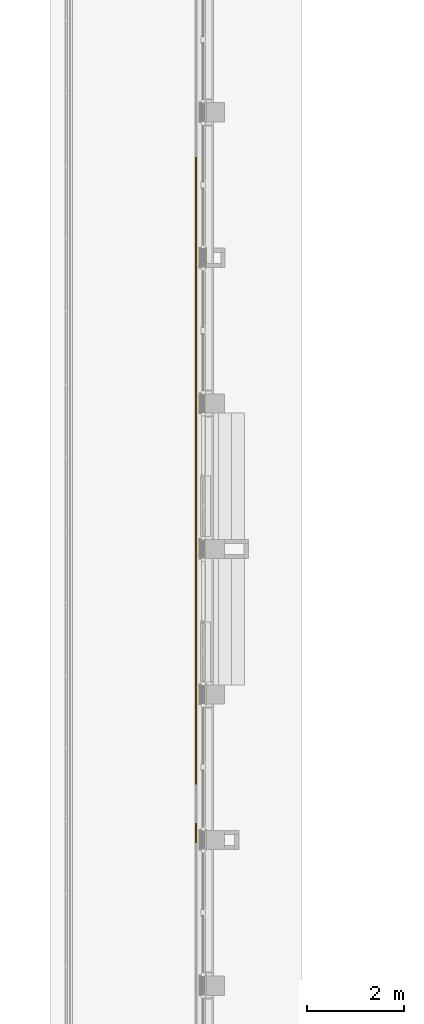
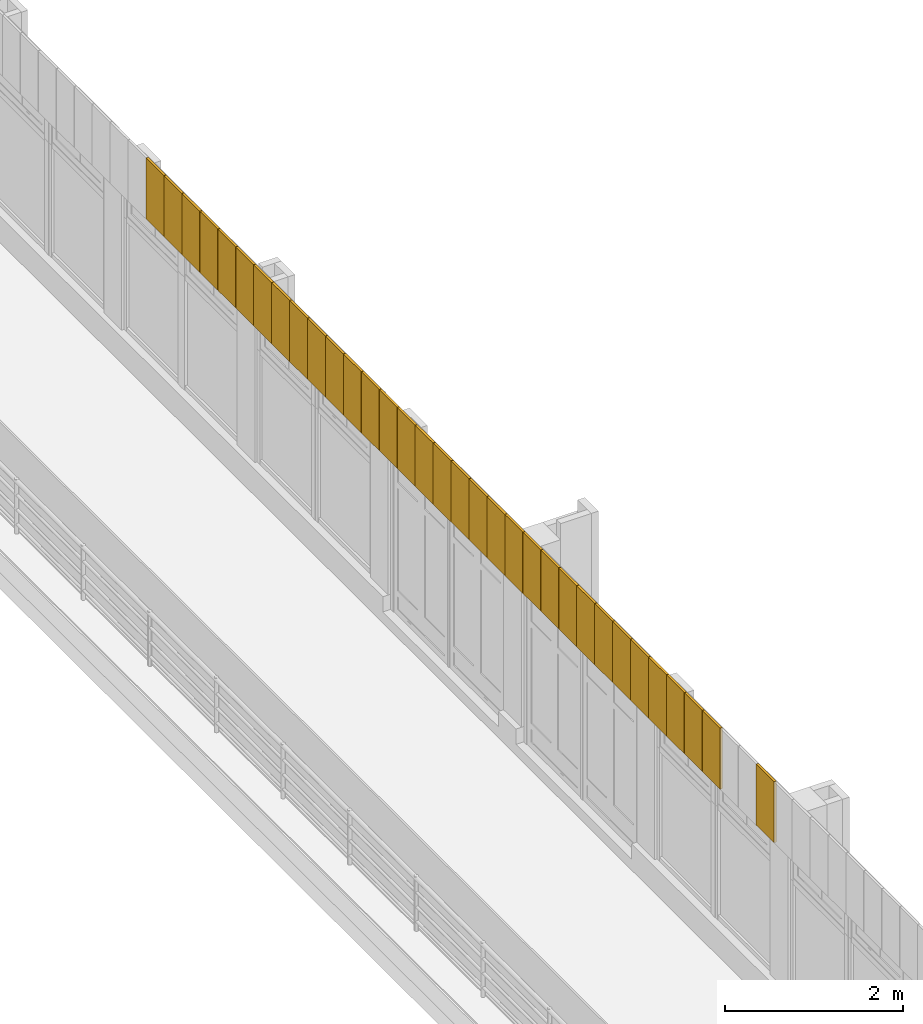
# One storey, part 15 of 16: 33 coverings.
"""IFC2X3 building model written with IfcOpenShell, lengths in millimetres."""

from ifc_helpers import new_model, entity, si_unit, converted_unit, derived_unit, direction, frame, frame_2d, origin, place, context, subcontext, project, spatial, rectangle, extrude, material, type_object, element, save


model = new_model("IFC2X3")

# Units and contexts
model_context = context("Model", 3, precision=0.01, world=origin(), true_north=direction((6.123031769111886e-17, 1.0)))
body_context = subcontext(model_context, "Body", "Model", "MODEL_VIEW")
ifc_project = project(units=[si_unit("LENGTHUNIT", "METRE", prefix="MILLI"), si_unit("AREAUNIT", "SQUARE_METRE"), si_unit("VOLUMEUNIT", "CUBIC_METRE"), converted_unit("PLANEANGLEUNIT", "DEGREE", entity("IfcPlaneAngleMeasure", 0.017453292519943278), si_unit("PLANEANGLEUNIT", "RADIAN"), dimensions=[0, 0, 0, 0, 0, 0, 0]), si_unit("MASSUNIT", "GRAM", prefix="KILO"), derived_unit("MASSDENSITYUNIT", [(si_unit("MASSUNIT", "GRAM", prefix="KILO"), 1), (si_unit("LENGTHUNIT", "METRE"), -3)]), derived_unit("IONCONCENTRATIONUNIT", [(si_unit("MASSUNIT", "GRAM", prefix="KILO"), 1), (si_unit("LENGTHUNIT", "METRE"), -3)]), derived_unit("MOMENTOFINERTIAUNIT", [(si_unit("LENGTHUNIT", "METRE"), 4)]), si_unit("TIMEUNIT", "SECOND"), si_unit("FREQUENCYUNIT", "HERTZ"), si_unit("THERMODYNAMICTEMPERATUREUNIT", "DEGREE_CELSIUS"), derived_unit("THERMALTRANSMITTANCEUNIT", [(si_unit("MASSUNIT", "GRAM", prefix="KILO"), 1), (si_unit("THERMODYNAMICTEMPERATUREUNIT", "KELVIN"), -1), (si_unit("TIMEUNIT", "SECOND"), -3)]), derived_unit("THERMALCONDUCTANCEUNIT", [(si_unit("MASSUNIT", "GRAM", prefix="KILO"), 1), (si_unit("THERMODYNAMICTEMPERATUREUNIT", "KELVIN"), -1), (si_unit("TIMEUNIT", "SECOND"), -3), (si_unit("LENGTHUNIT", "METRE"), 1)]), derived_unit("VOLUMETRICFLOWRATEUNIT", [(si_unit("LENGTHUNIT", "METRE", prefix="DECI"), 3), (si_unit("TIMEUNIT", "SECOND"), -1)]), derived_unit("MASSFLOWRATEUNIT", [(si_unit("MASSUNIT", "GRAM", prefix="KILO"), 1), (si_unit("TIMEUNIT", "SECOND"), -1)]), derived_unit("ROTATIONALFREQUENCYUNIT", [(si_unit("TIMEUNIT", "SECOND"), -1)]), si_unit("ELECTRICCURRENTUNIT", "AMPERE"), si_unit("ELECTRICVOLTAGEUNIT", "VOLT"), si_unit("POWERUNIT", "WATT"), si_unit("FORCEUNIT", "NEWTON", prefix="KILO"), si_unit("ILLUMINANCEUNIT", "LUX"), si_unit("LUMINOUSFLUXUNIT", "LUMEN"), si_unit("LUMINOUSINTENSITYUNIT", "CANDELA"), si_unit("ENERGYUNIT", "JOULE"), derived_unit("USERDEFINED", [(si_unit("MASSUNIT", "GRAM", prefix="KILO"), -1), (si_unit("LENGTHUNIT", "METRE"), -2), (si_unit("TIMEUNIT", "SECOND"), 3), (si_unit("LUMINOUSFLUXUNIT", "LUMEN"), 1)]), derived_unit("USERDEFINED", [(si_unit("MASSUNIT", "GRAM", prefix="KILO"), 1), (si_unit("TIMEUNIT", "SECOND"), -3), (si_unit("LENGTHUNIT", "METRE"), 3), (si_unit("ELECTRICCURRENTUNIT", "AMPERE"), -2)]), derived_unit("SOUNDPOWERUNIT", [(si_unit("MASSUNIT", "GRAM", prefix="KILO"), 1), (si_unit("TIMEUNIT", "SECOND"), -3), (si_unit("LENGTHUNIT", "METRE"), 2)]), derived_unit("SOUNDPRESSUREUNIT", [(si_unit("MASSUNIT", "GRAM", prefix="KILO"), 1), (si_unit("LENGTHUNIT", "METRE"), -1), (si_unit("TIMEUNIT", "SECOND"), -2)]), derived_unit("LINEARVELOCITYUNIT", [(si_unit("LENGTHUNIT", "METRE"), 1), (si_unit("TIMEUNIT", "SECOND"), -1)]), si_unit("PRESSUREUNIT", "PASCAL"), derived_unit("USERDEFINED", [(si_unit("MASSUNIT", "GRAM", prefix="KILO"), 1), (si_unit("LENGTHUNIT", "METRE"), -2), (si_unit("TIMEUNIT", "SECOND"), -2)]), derived_unit("LINEARFORCEUNIT", [(si_unit("MASSUNIT", "GRAM", prefix="KILO"), 1), (si_unit("TIMEUNIT", "SECOND"), -2)]), derived_unit("PLANARFORCEUNIT", [(si_unit("MASSUNIT", "GRAM", prefix="KILO"), 1), (si_unit("LENGTHUNIT", "METRE"), -1), (si_unit("TIMEUNIT", "SECOND"), -2)]), derived_unit("SPECIFICHEATCAPACITYUNIT", [(si_unit("THERMODYNAMICTEMPERATUREUNIT", "KELVIN"), -1), (si_unit("LENGTHUNIT", "METRE"), 2), (si_unit("TIMEUNIT", "SECOND"), -2)]), derived_unit("HEATFLUXDENSITYUNIT", [(si_unit("MASSUNIT", "GRAM", prefix="KILO"), 1), (si_unit("TIMEUNIT", "SECOND"), -3)]), derived_unit("HEATINGVALUEUNIT", [(si_unit("LENGTHUNIT", "METRE"), 2), (si_unit("TIMEUNIT", "SECOND"), -2)]), derived_unit("VAPORPERMEABILITYUNIT", [(si_unit("LENGTHUNIT", "METRE"), -1), (si_unit("TIMEUNIT", "SECOND"), 1)]), derived_unit("DYNAMICVISCOSITYUNIT", [(si_unit("MASSUNIT", "GRAM", prefix="KILO"), 1), (si_unit("TIMEUNIT", "SECOND"), -1), (si_unit("LENGTHUNIT", "METRE"), -1)]), derived_unit("THERMALEXPANSIONCOEFFICIENTUNIT", [(si_unit("THERMODYNAMICTEMPERATUREUNIT", "KELVIN"), -1)]), derived_unit("MODULUSOFELASTICITYUNIT", [(si_unit("MASSUNIT", "GRAM", prefix="KILO"), 1), (si_unit("LENGTHUNIT", "METRE"), -1), (si_unit("TIMEUNIT", "SECOND"), -2)]), derived_unit("ISOTHERMALMOISTURECAPACITYUNIT", [(si_unit("MASSUNIT", "GRAM", prefix="KILO"), -1), (si_unit("LENGTHUNIT", "METRE"), 3)]), derived_unit("MOISTUREDIFFUSIVITYUNIT", [(si_unit("TIMEUNIT", "SECOND"), -1), (si_unit("LENGTHUNIT", "METRE"), 2)]), derived_unit("MASSPERLENGTHUNIT", [(si_unit("MASSUNIT", "GRAM", prefix="KILO"), 1), (si_unit("LENGTHUNIT", "METRE"), -1)]), derived_unit("THERMALRESISTANCEUNIT", [(si_unit("MASSUNIT", "GRAM", prefix="KILO"), -1), (si_unit("TIMEUNIT", "SECOND"), 3), (si_unit("THERMODYNAMICTEMPERATUREUNIT", "KELVIN"), 1)]), derived_unit("ACCELERATIONUNIT", [(si_unit("LENGTHUNIT", "METRE"), 1), (si_unit("TIMEUNIT", "SECOND"), -2)]), derived_unit("ANGULARVELOCITYUNIT", [(si_unit("TIMEUNIT", "SECOND"), -1), (si_unit("PLANEANGLEUNIT", "RADIAN"), 1)]), derived_unit("LINEARSTIFFNESSUNIT", [(si_unit("MASSUNIT", "GRAM", prefix="KILO"), 1), (si_unit("TIMEUNIT", "SECOND"), -2)]), derived_unit("WARPINGCONSTANTUNIT", [(si_unit("LENGTHUNIT", "METRE"), 6)]), derived_unit("LINEARMOMENTUNIT", [(si_unit("MASSUNIT", "GRAM", prefix="KILO"), 1), (si_unit("LENGTHUNIT", "METRE"), 1), (si_unit("TIMEUNIT", "SECOND"), -2)]), derived_unit("TORQUEUNIT", [(si_unit("MASSUNIT", "GRAM", prefix="KILO"), 1), (si_unit("LENGTHUNIT", "METRE"), 2), (si_unit("TIMEUNIT", "SECOND"), -2)])], contexts=[model_context])

# Site, building, storey
site_placement = place(None, origin())
site = spatial("IfcSite", under=ifc_project, at=site_placement, Name="Default", CompositionType="ELEMENT")
building_placement = place(site_placement, origin())
building = spatial("IfcBuilding", under=site, at=building_placement, Name="Eesti Rahvusraamatukogu hoone renoveerimise projekteerimistööd", CompositionType="ELEMENT")
storey_placement = place(building_placement, frame((0.0, 0.0, 8250.000000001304)))
storey = spatial("IfcBuildingStorey", under=building, at=storey_placement, Name="3. korrus", CompositionType="ELEMENT", Elevation=8250.000000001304)

# Coverings
ifc_material = material(Name="LUMION_facade new panels")
covering_type = type_object("IfcCoveringType", Name="Fassaadiplaat:FP-01- 400x840", PredefinedType="NOTDEFINED")
covering_1_placement = place(storey_placement, frame((0.0, 0.0, 2600.0)))
element("IfcCovering", 1, at=covering_1_placement, inside=storey, type_object=covering_type, material=ifc_material, Name="Fassaadiplaat:FP-01- 400x840", ObjectType="Fassaadiplaat:FP-01- 400x840", PredefinedType="NOTDEFINED", context=body_context, shape_type="SweptSolid", body=[
    extrude(rectangle(XDim=400.0, YDim=4.999999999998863, at=frame_2d((2.1742607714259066e-12, 0.0), x_axis=(1.0, 0.0))), frame((-33797.49999999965, 27188.0, 0.0), z_axis=(0.0, 0.0, 1.0), x_axis=(0.0, 1.0, 0.0)), (0.0, 0.0, 1.0), 839.9999999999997),
    extrude(rectangle(XDim=400.0, YDim=24.99999999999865, at=frame_2d((2.1742607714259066e-12, 2.1662671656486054e-12), x_axis=(1.0, 0.0))), frame((-33782.49999999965, 27188.0, 0.0), z_axis=(0.0, 0.0, 1.0), x_axis=(0.0, 1.0, 0.0)), (0.0, 0.0, 1.0), 839.9999999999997),
])
covering_2_placement = place(storey_placement, frame((0.0, 0.0, 2600.0)))
element("IfcCovering", 2, at=covering_2_placement, inside=storey, type_object=covering_type, material=ifc_material, Name="Fassaadiplaat:FP-01- 400x840", ObjectType="Fassaadiplaat:FP-01- 400x840", PredefinedType="NOTDEFINED", context=body_context, shape_type="SweptSolid", body=[
    extrude(rectangle(XDim=400.0, YDim=4.999999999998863, at=frame_2d((-2.1742607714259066e-12, 0.0), x_axis=(1.0, 0.0))), frame((-33797.49999999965, 26784.0, 0.0), z_axis=(0.0, 0.0, 1.0), x_axis=(0.0, 1.0, 0.0)), (0.0, 0.0, 1.0), 839.9999999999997),
    extrude(rectangle(XDim=400.0, YDim=24.99999999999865, at=frame_2d((-2.1742607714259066e-12, 2.1662671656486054e-12), x_axis=(1.0, 0.0))), frame((-33782.49999999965, 26784.0, 0.0), z_axis=(0.0, 0.0, 1.0), x_axis=(0.0, 1.0, 0.0)), (0.0, 0.0, 1.0), 839.9999999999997),
])
covering_3_placement = place(storey_placement, frame((0.0, 0.0, 2600.0)))
element("IfcCovering", 3, at=covering_3_placement, inside=storey, type_object=covering_type, material=ifc_material, Name="Fassaadiplaat:FP-01- 400x840", ObjectType="Fassaadiplaat:FP-01- 400x840", PredefinedType="NOTDEFINED", context=body_context, shape_type="SweptSolid", body=[
    extrude(rectangle(XDim=400.0, YDim=4.999999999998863, at=frame_2d((2.1742607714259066e-12, 0.0), x_axis=(1.0, 0.0))), frame((-33797.49999999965, 26380.0, 0.0), z_axis=(0.0, 0.0, 1.0), x_axis=(0.0, 1.0, 0.0)), (0.0, 0.0, 1.0), 839.9999999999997),
    extrude(rectangle(XDim=400.0, YDim=24.99999999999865, at=frame_2d((2.1742607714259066e-12, 2.1662671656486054e-12), x_axis=(1.0, 0.0))), frame((-33782.49999999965, 26380.0, 0.0), z_axis=(0.0, 0.0, 1.0), x_axis=(0.0, 1.0, 0.0)), (0.0, 0.0, 1.0), 839.9999999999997),
])
covering_4_placement = place(storey_placement, frame((0.0, 0.0, 2600.0)))
element("IfcCovering", 4, at=covering_4_placement, inside=storey, type_object=covering_type, material=ifc_material, Name="Fassaadiplaat:FP-01- 400x840", ObjectType="Fassaadiplaat:FP-01- 400x840", PredefinedType="NOTDEFINED", context=body_context, shape_type="SweptSolid", body=[
    extrude(rectangle(XDim=400.0, YDim=4.999999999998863, at=frame_2d((-2.1742607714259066e-12, 0.0), x_axis=(1.0, 0.0))), frame((-33797.49999999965, 25976.0, 0.0), z_axis=(0.0, 0.0, 1.0), x_axis=(0.0, 1.0, 0.0)), (0.0, 0.0, 1.0), 839.9999999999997),
    extrude(rectangle(XDim=400.0, YDim=24.99999999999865, at=frame_2d((-2.1742607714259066e-12, 2.1662671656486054e-12), x_axis=(1.0, 0.0))), frame((-33782.49999999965, 25976.0, 0.0), z_axis=(0.0, 0.0, 1.0), x_axis=(0.0, 1.0, 0.0)), (0.0, 0.0, 1.0), 839.9999999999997),
])
covering_5_placement = place(storey_placement, frame((0.0, 0.0, 2600.0)))
element("IfcCovering", 5, at=covering_5_placement, inside=storey, type_object=covering_type, material=ifc_material, Name="Fassaadiplaat:FP-01- 400x840", ObjectType="Fassaadiplaat:FP-01- 400x840", PredefinedType="NOTDEFINED", context=body_context, shape_type="SweptSolid", body=[
    extrude(rectangle(XDim=400.0, YDim=4.999999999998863, at=frame_2d((2.1742607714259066e-12, 0.0), x_axis=(1.0, 0.0))), frame((-33797.49999999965, 25572.0, 0.0), z_axis=(0.0, 0.0, 1.0), x_axis=(0.0, 1.0, 0.0)), (0.0, 0.0, 1.0), 839.9999999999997),
    extrude(rectangle(XDim=400.0, YDim=24.99999999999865, at=frame_2d((2.1742607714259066e-12, 2.1662671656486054e-12), x_axis=(1.0, 0.0))), frame((-33782.49999999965, 25572.0, 0.0), z_axis=(0.0, 0.0, 1.0), x_axis=(0.0, 1.0, 0.0)), (0.0, 0.0, 1.0), 839.9999999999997),
])
covering_6_placement = place(storey_placement, frame((0.0, 0.0, 2600.0)))
element("IfcCovering", 6, at=covering_6_placement, inside=storey, type_object=covering_type, material=ifc_material, Name="Fassaadiplaat:FP-01- 400x840", ObjectType="Fassaadiplaat:FP-01- 400x840", PredefinedType="NOTDEFINED", context=body_context, shape_type="SweptSolid", body=[
    extrude(rectangle(XDim=400.0, YDim=4.999999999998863, at=frame_2d((-2.1742607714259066e-12, 0.0), x_axis=(1.0, 0.0))), frame((-33797.49999999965, 25168.0, 0.0), z_axis=(0.0, 0.0, 1.0), x_axis=(0.0, 1.0, 0.0)), (0.0, 0.0, 1.0), 839.9999999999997),
    extrude(rectangle(XDim=400.0, YDim=24.99999999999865, at=frame_2d((-2.1742607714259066e-12, 2.1662671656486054e-12), x_axis=(1.0, 0.0))), frame((-33782.49999999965, 25168.0, 0.0), z_axis=(0.0, 0.0, 1.0), x_axis=(0.0, 1.0, 0.0)), (0.0, 0.0, 1.0), 839.9999999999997),
])
covering_7_placement = place(storey_placement, frame((0.0, 0.0, 2600.0)))
element("IfcCovering", 7, at=covering_7_placement, inside=storey, type_object=covering_type, material=ifc_material, Name="Fassaadiplaat:FP-01- 400x840", ObjectType="Fassaadiplaat:FP-01- 400x840", PredefinedType="NOTDEFINED", context=body_context, shape_type="SweptSolid", body=[
    extrude(rectangle(XDim=400.0, YDim=4.999999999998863, at=frame_2d((2.1742607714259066e-12, 0.0), x_axis=(1.0, 0.0))), frame((-33797.49999999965, 24764.0, 0.0), z_axis=(0.0, 0.0, 1.0), x_axis=(0.0, 1.0, 0.0)), (0.0, 0.0, 1.0), 839.9999999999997),
    extrude(rectangle(XDim=400.0, YDim=24.99999999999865, at=frame_2d((2.1742607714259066e-12, 2.1662671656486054e-12), x_axis=(1.0, 0.0))), frame((-33782.49999999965, 24764.0, 0.0), z_axis=(0.0, 0.0, 1.0), x_axis=(0.0, 1.0, 0.0)), (0.0, 0.0, 1.0), 839.9999999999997),
])
covering_8_placement = place(storey_placement, frame((0.0, 0.0, 2600.0)))
element("IfcCovering", 8, at=covering_8_placement, inside=storey, type_object=covering_type, material=ifc_material, Name="Fassaadiplaat:FP-01- 400x840", ObjectType="Fassaadiplaat:FP-01- 400x840", PredefinedType="NOTDEFINED", context=body_context, shape_type="SweptSolid", body=[
    extrude(rectangle(XDim=400.0, YDim=4.999999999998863, at=frame_2d((-2.1742607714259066e-12, 0.0), x_axis=(1.0, 0.0))), frame((-33797.49999999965, 24360.0, 0.0), z_axis=(0.0, 0.0, 1.0), x_axis=(0.0, 1.0, 0.0)), (0.0, 0.0, 1.0), 839.9999999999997),
    extrude(rectangle(XDim=400.0, YDim=24.99999999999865, at=frame_2d((-2.1742607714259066e-12, 2.1662671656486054e-12), x_axis=(1.0, 0.0))), frame((-33782.49999999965, 24360.0, 0.0), z_axis=(0.0, 0.0, 1.0), x_axis=(0.0, 1.0, 0.0)), (0.0, 0.0, 1.0), 839.9999999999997),
])
covering_9_placement = place(storey_placement, frame((0.0, 0.0, 2600.0)))
element("IfcCovering", 9, at=covering_9_placement, inside=storey, type_object=covering_type, material=ifc_material, Name="Fassaadiplaat:FP-01- 400x840", ObjectType="Fassaadiplaat:FP-01- 400x840", PredefinedType="NOTDEFINED", context=body_context, shape_type="SweptSolid", body=[
    extrude(rectangle(XDim=400.0, YDim=4.999999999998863, at=frame_2d((2.1742607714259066e-12, 0.0), x_axis=(1.0, 0.0))), frame((-33797.49999999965, 23956.0, 0.0), z_axis=(0.0, 0.0, 1.0), x_axis=(0.0, 1.0, 0.0)), (0.0, 0.0, 1.0), 839.9999999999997),
    extrude(rectangle(XDim=400.0, YDim=24.99999999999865, at=frame_2d((2.1742607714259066e-12, 2.1662671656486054e-12), x_axis=(1.0, 0.0))), frame((-33782.49999999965, 23956.0, 0.0), z_axis=(0.0, 0.0, 1.0), x_axis=(0.0, 1.0, 0.0)), (0.0, 0.0, 1.0), 839.9999999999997),
])
covering_10_placement = place(storey_placement, frame((0.0, 0.0, 2600.0)))
element("IfcCovering", 10, at=covering_10_placement, inside=storey, type_object=covering_type, material=ifc_material, Name="Fassaadiplaat:FP-01- 400x840", ObjectType="Fassaadiplaat:FP-01- 400x840", PredefinedType="NOTDEFINED", context=body_context, shape_type="SweptSolid", body=[
    extrude(rectangle(XDim=400.0, YDim=4.999999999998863, at=frame_2d((-2.1742607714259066e-12, 0.0), x_axis=(1.0, 0.0))), frame((-33797.49999999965, 23552.0, 0.0), z_axis=(0.0, 0.0, 1.0), x_axis=(0.0, 1.0, 0.0)), (0.0, 0.0, 1.0), 839.9999999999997),
    extrude(rectangle(XDim=400.0, YDim=24.99999999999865, at=frame_2d((-2.1742607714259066e-12, 2.1662671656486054e-12), x_axis=(1.0, 0.0))), frame((-33782.49999999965, 23552.0, 0.0), z_axis=(0.0, 0.0, 1.0), x_axis=(0.0, 1.0, 0.0)), (0.0, 0.0, 1.0), 839.9999999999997),
])
covering_11_placement = place(storey_placement, frame((0.0, 0.0, 2600.0)))
element("IfcCovering", 11, at=covering_11_placement, inside=storey, type_object=covering_type, material=ifc_material, Name="Fassaadiplaat:FP-01- 400x840", ObjectType="Fassaadiplaat:FP-01- 400x840", PredefinedType="NOTDEFINED", context=body_context, shape_type="SweptSolid", body=[
    extrude(rectangle(XDim=400.0, YDim=4.999999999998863, at=frame_2d((2.1742607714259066e-12, 0.0), x_axis=(1.0, 0.0))), frame((-33797.49999999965, 23148.0, 0.0), z_axis=(0.0, 0.0, 1.0), x_axis=(0.0, 1.0, 0.0)), (0.0, 0.0, 1.0), 839.9999999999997),
    extrude(rectangle(XDim=400.0, YDim=24.99999999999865, at=frame_2d((2.1742607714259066e-12, 2.1662671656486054e-12), x_axis=(1.0, 0.0))), frame((-33782.49999999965, 23148.0, 0.0), z_axis=(0.0, 0.0, 1.0), x_axis=(0.0, 1.0, 0.0)), (0.0, 0.0, 1.0), 839.9999999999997),
])
covering_12_placement = place(storey_placement, frame((0.0, 0.0, 2600.0)))
element("IfcCovering", 12, at=covering_12_placement, inside=storey, type_object=covering_type, material=ifc_material, Name="Fassaadiplaat:FP-01- 400x840", ObjectType="Fassaadiplaat:FP-01- 400x840", PredefinedType="NOTDEFINED", context=body_context, shape_type="SweptSolid", body=[
    extrude(rectangle(XDim=400.0, YDim=4.999999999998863, at=frame_2d((-2.1742607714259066e-12, 0.0), x_axis=(1.0, 0.0))), frame((-33797.49999999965, 22744.0, 0.0), z_axis=(0.0, 0.0, 1.0), x_axis=(0.0, 1.0, 0.0)), (0.0, 0.0, 1.0), 839.9999999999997),
    extrude(rectangle(XDim=400.0, YDim=24.99999999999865, at=frame_2d((-2.1742607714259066e-12, 2.1662671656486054e-12), x_axis=(1.0, 0.0))), frame((-33782.49999999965, 22744.0, 0.0), z_axis=(0.0, 0.0, 1.0), x_axis=(0.0, 1.0, 0.0)), (0.0, 0.0, 1.0), 839.9999999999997),
])
covering_13_placement = place(storey_placement, frame((0.0, 0.0, 2600.0)))
element("IfcCovering", 13, at=covering_13_placement, inside=storey, type_object=covering_type, material=ifc_material, Name="Fassaadiplaat:FP-01- 400x840", ObjectType="Fassaadiplaat:FP-01- 400x840", PredefinedType="NOTDEFINED", context=body_context, shape_type="SweptSolid", body=[
    extrude(rectangle(XDim=400.0, YDim=4.999999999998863, at=frame_2d((2.1742607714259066e-12, 0.0), x_axis=(1.0, 0.0))), frame((-33797.49999999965, 21532.0, 0.0), z_axis=(0.0, 0.0, 1.0), x_axis=(0.0, 1.0, 0.0)), (0.0, 0.0, 1.0), 839.9999999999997),
    extrude(rectangle(XDim=400.0, YDim=24.99999999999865, at=frame_2d((2.1742607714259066e-12, 2.1662671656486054e-12), x_axis=(1.0, 0.0))), frame((-33782.49999999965, 21532.0, 0.0), z_axis=(0.0, 0.0, 1.0), x_axis=(0.0, 1.0, 0.0)), (0.0, 0.0, 1.0), 839.9999999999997),
])
covering_14_placement = place(storey_placement, frame((0.0, 0.0, 2600.0)))
element("IfcCovering", 14, at=covering_14_placement, inside=storey, type_object=covering_type, material=ifc_material, Name="Fassaadiplaat:FP-01- 400x840", ObjectType="Fassaadiplaat:FP-01- 400x840", PredefinedType="NOTDEFINED", context=body_context, shape_type="SweptSolid", body=[
    extrude(rectangle(XDim=400.0, YDim=4.999999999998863, at=frame_2d((2.1742607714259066e-12, 0.0), x_axis=(1.0, 0.0))), frame((-33797.49999999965, 27592.0, 0.0), z_axis=(0.0, 0.0, 1.0), x_axis=(0.0, 1.0, 0.0)), (0.0, 0.0, 1.0), 839.9999999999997),
    extrude(rectangle(XDim=400.0, YDim=24.99999999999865, at=frame_2d((2.1742607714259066e-12, 2.1662671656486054e-12), x_axis=(1.0, 0.0))), frame((-33782.49999999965, 27592.0, 0.0), z_axis=(0.0, 0.0, 1.0), x_axis=(0.0, 1.0, 0.0)), (0.0, 0.0, 1.0), 839.9999999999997),
])
covering_15_placement = place(storey_placement, frame((0.0, 0.0, 2600.0)))
element("IfcCovering", 15, at=covering_15_placement, inside=storey, type_object=covering_type, material=ifc_material, Name="Fassaadiplaat:FP-01- 400x840", ObjectType="Fassaadiplaat:FP-01- 400x840", PredefinedType="NOTDEFINED", context=body_context, shape_type="SweptSolid", body=[
    extrude(rectangle(XDim=400.0, YDim=4.999999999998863, at=frame_2d((2.1742607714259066e-12, 0.0), x_axis=(1.0, 0.0))), frame((-33797.49999999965, 27996.0, 0.0), z_axis=(0.0, 0.0, 1.0), x_axis=(0.0, 1.0, 0.0)), (0.0, 0.0, 1.0), 839.9999999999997),
    extrude(rectangle(XDim=400.0, YDim=24.99999999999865, at=frame_2d((2.1742607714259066e-12, 2.1662671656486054e-12), x_axis=(1.0, 0.0))), frame((-33782.49999999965, 27996.0, 0.0), z_axis=(0.0, 0.0, 1.0), x_axis=(0.0, 1.0, 0.0)), (0.0, 0.0, 1.0), 839.9999999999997),
])
covering_16_placement = place(storey_placement, frame((0.0, 0.0, 2600.0)))
element("IfcCovering", 16, at=covering_16_placement, inside=storey, type_object=covering_type, material=ifc_material, Name="Fassaadiplaat:FP-01- 400x840", ObjectType="Fassaadiplaat:FP-01- 400x840", PredefinedType="NOTDEFINED", context=body_context, shape_type="SweptSolid", body=[
    extrude(rectangle(XDim=400.0, YDim=4.999999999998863, at=frame_2d((-2.1742607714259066e-12, 0.0), x_axis=(1.0, 0.0))), frame((-33797.49999999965, 28400.0, 0.0), z_axis=(0.0, 0.0, 1.0), x_axis=(0.0, 1.0, 0.0)), (0.0, 0.0, 1.0), 839.9999999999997),
    extrude(rectangle(XDim=400.0, YDim=24.99999999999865, at=frame_2d((-2.1742607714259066e-12, 2.1662671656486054e-12), x_axis=(1.0, 0.0))), frame((-33782.49999999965, 28400.0, 0.0), z_axis=(0.0, 0.0, 1.0), x_axis=(0.0, 1.0, 0.0)), (0.0, 0.0, 1.0), 839.9999999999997),
])
covering_17_placement = place(storey_placement, frame((0.0, 0.0, 2600.0)))
element("IfcCovering", 17, at=covering_17_placement, inside=storey, type_object=covering_type, material=ifc_material, Name="Fassaadiplaat:FP-01- 400x840", ObjectType="Fassaadiplaat:FP-01- 400x840", PredefinedType="NOTDEFINED", context=body_context, shape_type="SweptSolid", body=[
    extrude(rectangle(XDim=400.0, YDim=4.999999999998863, at=frame_2d((2.1742607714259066e-12, 0.0), x_axis=(1.0, 0.0))), frame((-33797.49999999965, 28804.0, 0.0), z_axis=(0.0, 0.0, 1.0), x_axis=(0.0, 1.0, 0.0)), (0.0, 0.0, 1.0), 839.9999999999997),
    extrude(rectangle(XDim=400.0, YDim=24.99999999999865, at=frame_2d((2.1742607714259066e-12, 2.1662671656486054e-12), x_axis=(1.0, 0.0))), frame((-33782.49999999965, 28804.0, 0.0), z_axis=(0.0, 0.0, 1.0), x_axis=(0.0, 1.0, 0.0)), (0.0, 0.0, 1.0), 839.9999999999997),
])
covering_18_placement = place(storey_placement, frame((0.0, 0.0, 2600.0)))
element("IfcCovering", 18, at=covering_18_placement, inside=storey, type_object=covering_type, material=ifc_material, Name="Fassaadiplaat:FP-01- 400x840", ObjectType="Fassaadiplaat:FP-01- 400x840", PredefinedType="NOTDEFINED", context=body_context, shape_type="SweptSolid", body=[
    extrude(rectangle(XDim=400.0, YDim=4.999999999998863, at=frame_2d((-2.1742607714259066e-12, 0.0), x_axis=(1.0, 0.0))), frame((-33797.49999999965, 29208.0, 0.0), z_axis=(0.0, 0.0, 1.0), x_axis=(0.0, 1.0, 0.0)), (0.0, 0.0, 1.0), 839.9999999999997),
    extrude(rectangle(XDim=400.0, YDim=24.99999999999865, at=frame_2d((-2.1742607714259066e-12, 2.1662671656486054e-12), x_axis=(1.0, 0.0))), frame((-33782.49999999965, 29208.0, 0.0), z_axis=(0.0, 0.0, 1.0), x_axis=(0.0, 1.0, 0.0)), (0.0, 0.0, 1.0), 839.9999999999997),
])
covering_19_placement = place(storey_placement, frame((0.0, 0.0, 2600.0)))
element("IfcCovering", 19, at=covering_19_placement, inside=storey, type_object=covering_type, material=ifc_material, Name="Fassaadiplaat:FP-01- 400x840", ObjectType="Fassaadiplaat:FP-01- 400x840", PredefinedType="NOTDEFINED", context=body_context, shape_type="SweptSolid", body=[
    extrude(rectangle(XDim=400.0, YDim=4.999999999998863, at=frame_2d((2.1742607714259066e-12, 0.0), x_axis=(1.0, 0.0))), frame((-33797.49999999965, 29612.0, 0.0), z_axis=(0.0, 0.0, 1.0), x_axis=(0.0, 1.0, 0.0)), (0.0, 0.0, 1.0), 839.9999999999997),
    extrude(rectangle(XDim=400.0, YDim=24.99999999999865, at=frame_2d((2.1742607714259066e-12, 2.1662671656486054e-12), x_axis=(1.0, 0.0))), frame((-33782.49999999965, 29612.0, 0.0), z_axis=(0.0, 0.0, 1.0), x_axis=(0.0, 1.0, 0.0)), (0.0, 0.0, 1.0), 839.9999999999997),
])
covering_20_placement = place(storey_placement, frame((0.0, 0.0, 2600.0)))
element("IfcCovering", 20, at=covering_20_placement, inside=storey, type_object=covering_type, material=ifc_material, Name="Fassaadiplaat:FP-01- 400x840", ObjectType="Fassaadiplaat:FP-01- 400x840", PredefinedType="NOTDEFINED", context=body_context, shape_type="SweptSolid", body=[
    extrude(rectangle(XDim=400.0, YDim=4.999999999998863, at=frame_2d((-2.1742607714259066e-12, 0.0), x_axis=(1.0, 0.0))), frame((-33797.49999999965, 30016.0, 0.0), z_axis=(0.0, 0.0, 1.0), x_axis=(0.0, 1.0, 0.0)), (0.0, 0.0, 1.0), 839.9999999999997),
    extrude(rectangle(XDim=400.0, YDim=24.99999999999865, at=frame_2d((-2.1742607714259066e-12, 2.1662671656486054e-12), x_axis=(1.0, 0.0))), frame((-33782.49999999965, 30016.0, 0.0), z_axis=(0.0, 0.0, 1.0), x_axis=(0.0, 1.0, 0.0)), (0.0, 0.0, 1.0), 839.9999999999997),
])
covering_21_placement = place(storey_placement, frame((0.0, 0.0, 2600.0)))
element("IfcCovering", 21, at=covering_21_placement, inside=storey, type_object=covering_type, material=ifc_material, Name="Fassaadiplaat:FP-01- 400x840", ObjectType="Fassaadiplaat:FP-01- 400x840", PredefinedType="NOTDEFINED", context=body_context, shape_type="SweptSolid", body=[
    extrude(rectangle(XDim=400.0, YDim=4.999999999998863, at=frame_2d((2.1742607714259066e-12, 0.0), x_axis=(1.0, 0.0))), frame((-33797.49999999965, 30420.0, 0.0), z_axis=(0.0, 0.0, 1.0), x_axis=(0.0, 1.0, 0.0)), (0.0, 0.0, 1.0), 839.9999999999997),
    extrude(rectangle(XDim=400.0, YDim=24.99999999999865, at=frame_2d((2.1742607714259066e-12, 2.1662671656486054e-12), x_axis=(1.0, 0.0))), frame((-33782.49999999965, 30420.0, 0.0), z_axis=(0.0, 0.0, 1.0), x_axis=(0.0, 1.0, 0.0)), (0.0, 0.0, 1.0), 839.9999999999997),
])
covering_22_placement = place(storey_placement, frame((0.0, 0.0, 2600.0)))
element("IfcCovering", 22, at=covering_22_placement, inside=storey, type_object=covering_type, material=ifc_material, Name="Fassaadiplaat:FP-01- 400x840", ObjectType="Fassaadiplaat:FP-01- 400x840", PredefinedType="NOTDEFINED", context=body_context, shape_type="SweptSolid", body=[
    extrude(rectangle(XDim=400.0, YDim=4.999999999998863, at=frame_2d((2.1742607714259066e-12, 0.0), x_axis=(1.0, 0.0))), frame((-33797.49999999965, 30824.0, 0.0), z_axis=(0.0, 0.0, 1.0), x_axis=(0.0, 1.0, 0.0)), (0.0, 0.0, 1.0), 839.9999999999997),
    extrude(rectangle(XDim=400.0, YDim=24.99999999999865, at=frame_2d((2.1742607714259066e-12, 2.1662671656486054e-12), x_axis=(1.0, 0.0))), frame((-33782.49999999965, 30824.0, 0.0), z_axis=(0.0, 0.0, 1.0), x_axis=(0.0, 1.0, 0.0)), (0.0, 0.0, 1.0), 839.9999999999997),
])
covering_23_placement = place(storey_placement, frame((0.0, 0.0, 2600.0)))
element("IfcCovering", 23, at=covering_23_placement, inside=storey, type_object=covering_type, material=ifc_material, Name="Fassaadiplaat:FP-01- 400x840", ObjectType="Fassaadiplaat:FP-01- 400x840", PredefinedType="NOTDEFINED", context=body_context, shape_type="SweptSolid", body=[
    extrude(rectangle(XDim=400.0, YDim=4.999999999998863, at=frame_2d((2.1742607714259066e-12, 0.0), x_axis=(1.0, 0.0))), frame((-33797.49999999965, 31228.0, 0.0), z_axis=(0.0, 0.0, 1.0), x_axis=(0.0, 1.0, 0.0)), (0.0, 0.0, 1.0), 839.9999999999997),
    extrude(rectangle(XDim=400.0, YDim=24.99999999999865, at=frame_2d((2.1742607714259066e-12, 2.1662671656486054e-12), x_axis=(1.0, 0.0))), frame((-33782.49999999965, 31228.0, 0.0), z_axis=(0.0, 0.0, 1.0), x_axis=(0.0, 1.0, 0.0)), (0.0, 0.0, 1.0), 839.9999999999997),
])
covering_24_placement = place(storey_placement, frame((0.0, 0.0, 2600.0)))
element("IfcCovering", 24, at=covering_24_placement, inside=storey, type_object=covering_type, material=ifc_material, Name="Fassaadiplaat:FP-01- 400x840", ObjectType="Fassaadiplaat:FP-01- 400x840", PredefinedType="NOTDEFINED", context=body_context, shape_type="SweptSolid", body=[
    extrude(rectangle(XDim=400.0, YDim=4.999999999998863, at=frame_2d((-2.1742607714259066e-12, 0.0), x_axis=(1.0, 0.0))), frame((-33797.49999999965, 31632.0, 0.0), z_axis=(0.0, 0.0, 1.0), x_axis=(0.0, 1.0, 0.0)), (0.0, 0.0, 1.0), 839.9999999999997),
    extrude(rectangle(XDim=400.0, YDim=24.99999999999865, at=frame_2d((-2.1742607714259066e-12, 2.1662671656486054e-12), x_axis=(1.0, 0.0))), frame((-33782.49999999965, 31632.0, 0.0), z_axis=(0.0, 0.0, 1.0), x_axis=(0.0, 1.0, 0.0)), (0.0, 0.0, 1.0), 839.9999999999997),
])
covering_25_placement = place(storey_placement, frame((0.0, 0.0, 2600.0)))
element("IfcCovering", 25, at=covering_25_placement, inside=storey, type_object=covering_type, material=ifc_material, Name="Fassaadiplaat:FP-01- 400x840", ObjectType="Fassaadiplaat:FP-01- 400x840", PredefinedType="NOTDEFINED", context=body_context, shape_type="SweptSolid", body=[
    extrude(rectangle(XDim=400.0, YDim=4.999999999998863, at=frame_2d((2.1742607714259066e-12, 0.0), x_axis=(1.0, 0.0))), frame((-33797.49999999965, 32036.0, 0.0), z_axis=(0.0, 0.0, 1.0), x_axis=(0.0, 1.0, 0.0)), (0.0, 0.0, 1.0), 839.9999999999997),
    extrude(rectangle(XDim=400.0, YDim=24.99999999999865, at=frame_2d((2.1742607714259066e-12, 2.1662671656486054e-12), x_axis=(1.0, 0.0))), frame((-33782.49999999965, 32036.0, 0.0), z_axis=(0.0, 0.0, 1.0), x_axis=(0.0, 1.0, 0.0)), (0.0, 0.0, 1.0), 839.9999999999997),
])
covering_26_placement = place(storey_placement, frame((0.0, 0.0, 2600.0)))
element("IfcCovering", 26, at=covering_26_placement, inside=storey, type_object=covering_type, material=ifc_material, Name="Fassaadiplaat:FP-01- 400x840", ObjectType="Fassaadiplaat:FP-01- 400x840", PredefinedType="NOTDEFINED", context=body_context, shape_type="SweptSolid", body=[
    extrude(rectangle(XDim=400.0, YDim=4.999999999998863, at=frame_2d((-2.1742607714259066e-12, 0.0), x_axis=(1.0, 0.0))), frame((-33797.49999999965, 32440.0, 0.0), z_axis=(0.0, 0.0, 1.0), x_axis=(0.0, 1.0, 0.0)), (0.0, 0.0, 1.0), 839.9999999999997),
    extrude(rectangle(XDim=400.0, YDim=24.99999999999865, at=frame_2d((-2.1742607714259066e-12, 2.1662671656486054e-12), x_axis=(1.0, 0.0))), frame((-33782.49999999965, 32440.0, 0.0), z_axis=(0.0, 0.0, 1.0), x_axis=(0.0, 1.0, 0.0)), (0.0, 0.0, 1.0), 839.9999999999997),
])
covering_27_placement = place(storey_placement, frame((0.0, 0.0, 2600.0)))
element("IfcCovering", 27, at=covering_27_placement, inside=storey, type_object=covering_type, material=ifc_material, Name="Fassaadiplaat:FP-01- 400x840", ObjectType="Fassaadiplaat:FP-01- 400x840", PredefinedType="NOTDEFINED", context=body_context, shape_type="SweptSolid", body=[
    extrude(rectangle(XDim=400.0, YDim=4.999999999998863, at=frame_2d((2.1742607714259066e-12, 0.0), x_axis=(1.0, 0.0))), frame((-33797.49999999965, 32844.0, 0.0), z_axis=(0.0, 0.0, 1.0), x_axis=(0.0, 1.0, 0.0)), (0.0, 0.0, 1.0), 839.9999999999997),
    extrude(rectangle(XDim=400.0, YDim=24.99999999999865, at=frame_2d((2.1742607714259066e-12, 2.1662671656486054e-12), x_axis=(1.0, 0.0))), frame((-33782.49999999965, 32844.0, 0.0), z_axis=(0.0, 0.0, 1.0), x_axis=(0.0, 1.0, 0.0)), (0.0, 0.0, 1.0), 839.9999999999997),
])
covering_28_placement = place(storey_placement, frame((0.0, 0.0, 2600.0)))
element("IfcCovering", 28, at=covering_28_placement, inside=storey, type_object=covering_type, material=ifc_material, Name="Fassaadiplaat:FP-01- 400x840", ObjectType="Fassaadiplaat:FP-01- 400x840", PredefinedType="NOTDEFINED", context=body_context, shape_type="SweptSolid", body=[
    extrude(rectangle(XDim=400.0, YDim=4.999999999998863, at=frame_2d((-2.1742607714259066e-12, 0.0), x_axis=(1.0, 0.0))), frame((-33797.49999999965, 33248.0, 0.0), z_axis=(0.0, 0.0, 1.0), x_axis=(0.0, 1.0, 0.0)), (0.0, 0.0, 1.0), 839.9999999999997),
    extrude(rectangle(XDim=400.0, YDim=24.99999999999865, at=frame_2d((-2.1742607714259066e-12, 2.1662671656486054e-12), x_axis=(1.0, 0.0))), frame((-33782.49999999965, 33248.0, 0.0), z_axis=(0.0, 0.0, 1.0), x_axis=(0.0, 1.0, 0.0)), (0.0, 0.0, 1.0), 839.9999999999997),
])
covering_29_placement = place(storey_placement, frame((0.0, 0.0, 2600.0)))
element("IfcCovering", 29, at=covering_29_placement, inside=storey, type_object=covering_type, material=ifc_material, Name="Fassaadiplaat:FP-01- 400x840", ObjectType="Fassaadiplaat:FP-01- 400x840", PredefinedType="NOTDEFINED", context=body_context, shape_type="SweptSolid", body=[
    extrude(rectangle(XDim=400.0, YDim=4.999999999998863, at=frame_2d((2.1742607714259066e-12, 0.0), x_axis=(1.0, 0.0))), frame((-33797.49999999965, 33652.0, 0.0), z_axis=(0.0, 0.0, 1.0), x_axis=(0.0, 1.0, 0.0)), (0.0, 0.0, 1.0), 839.9999999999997),
    extrude(rectangle(XDim=400.0, YDim=24.99999999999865, at=frame_2d((2.1742607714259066e-12, 2.1662671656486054e-12), x_axis=(1.0, 0.0))), frame((-33782.49999999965, 33652.0, 0.0), z_axis=(0.0, 0.0, 1.0), x_axis=(0.0, 1.0, 0.0)), (0.0, 0.0, 1.0), 839.9999999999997),
])
covering_30_placement = place(storey_placement, frame((0.0, 0.0, 2600.0)))
element("IfcCovering", 30, at=covering_30_placement, inside=storey, type_object=covering_type, material=ifc_material, Name="Fassaadiplaat:FP-01- 400x840", ObjectType="Fassaadiplaat:FP-01- 400x840", PredefinedType="NOTDEFINED", context=body_context, shape_type="SweptSolid", body=[
    extrude(rectangle(XDim=400.0, YDim=4.999999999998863, at=frame_2d((2.1742607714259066e-12, 0.0), x_axis=(1.0, 0.0))), frame((-33797.49999999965, 34056.0, 0.0), z_axis=(0.0, 0.0, 1.0), x_axis=(0.0, 1.0, 0.0)), (0.0, 0.0, 1.0), 839.9999999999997),
    extrude(rectangle(XDim=400.0, YDim=24.99999999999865, at=frame_2d((2.1742607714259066e-12, 2.1662671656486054e-12), x_axis=(1.0, 0.0))), frame((-33782.49999999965, 34056.0, 0.0), z_axis=(0.0, 0.0, 1.0), x_axis=(0.0, 1.0, 0.0)), (0.0, 0.0, 1.0), 839.9999999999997),
])
covering_31_placement = place(storey_placement, frame((0.0, 0.0, 2600.0)))
element("IfcCovering", 31, at=covering_31_placement, inside=storey, type_object=covering_type, material=ifc_material, Name="Fassaadiplaat:FP-01- 400x840", ObjectType="Fassaadiplaat:FP-01- 400x840", PredefinedType="NOTDEFINED", context=body_context, shape_type="SweptSolid", body=[
    extrude(rectangle(XDim=400.0, YDim=4.999999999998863, at=frame_2d((2.1742607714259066e-12, 0.0), x_axis=(1.0, 0.0))), frame((-33797.49999999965, 34460.0, 0.0), z_axis=(0.0, 0.0, 1.0), x_axis=(0.0, 1.0, 0.0)), (0.0, 0.0, 1.0), 839.9999999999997),
    extrude(rectangle(XDim=400.0, YDim=24.99999999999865, at=frame_2d((2.1742607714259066e-12, 2.1662671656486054e-12), x_axis=(1.0, 0.0))), frame((-33782.49999999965, 34460.0, 0.0), z_axis=(0.0, 0.0, 1.0), x_axis=(0.0, 1.0, 0.0)), (0.0, 0.0, 1.0), 839.9999999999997),
])
covering_32_placement = place(storey_placement, frame((0.0, 0.0, 2600.0)))
element("IfcCovering", 32, at=covering_32_placement, inside=storey, type_object=covering_type, material=ifc_material, Name="Fassaadiplaat:FP-01- 400x840", ObjectType="Fassaadiplaat:FP-01- 400x840", PredefinedType="NOTDEFINED", context=body_context, shape_type="SweptSolid", body=[
    extrude(rectangle(XDim=400.0, YDim=4.999999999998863, at=frame_2d((-2.1742607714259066e-12, 0.0), x_axis=(1.0, 0.0))), frame((-33797.49999999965, 34864.0, 0.0), z_axis=(0.0, 0.0, 1.0), x_axis=(0.0, 1.0, 0.0)), (0.0, 0.0, 1.0), 839.9999999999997),
    extrude(rectangle(XDim=400.0, YDim=24.99999999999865, at=frame_2d((-2.1742607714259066e-12, 2.1662671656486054e-12), x_axis=(1.0, 0.0))), frame((-33782.49999999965, 34864.0, 0.0), z_axis=(0.0, 0.0, 1.0), x_axis=(0.0, 1.0, 0.0)), (0.0, 0.0, 1.0), 839.9999999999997),
])
covering_33_placement = place(storey_placement, frame((0.0, 0.0, 2600.0)))
element("IfcCovering", 33, at=covering_33_placement, inside=storey, type_object=covering_type, material=ifc_material, Name="Fassaadiplaat:FP-01- 400x840", ObjectType="Fassaadiplaat:FP-01- 400x840", PredefinedType="NOTDEFINED", context=body_context, shape_type="SweptSolid", body=[
    extrude(rectangle(XDim=400.0, YDim=4.999999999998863, at=frame_2d((2.1742607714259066e-12, 0.0), x_axis=(1.0, 0.0))), frame((-33797.49999999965, 35268.0, 0.0), z_axis=(0.0, 0.0, 1.0), x_axis=(0.0, 1.0, 0.0)), (0.0, 0.0, 1.0), 839.9999999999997),
    extrude(rectangle(XDim=400.0, YDim=24.99999999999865, at=frame_2d((2.1742607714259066e-12, 2.1662671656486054e-12), x_axis=(1.0, 0.0))), frame((-33782.49999999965, 35268.0, 0.0), z_axis=(0.0, 0.0, 1.0), x_axis=(0.0, 1.0, 0.0)), (0.0, 0.0, 1.0), 839.9999999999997),
])

save(model, "model.ifc")
